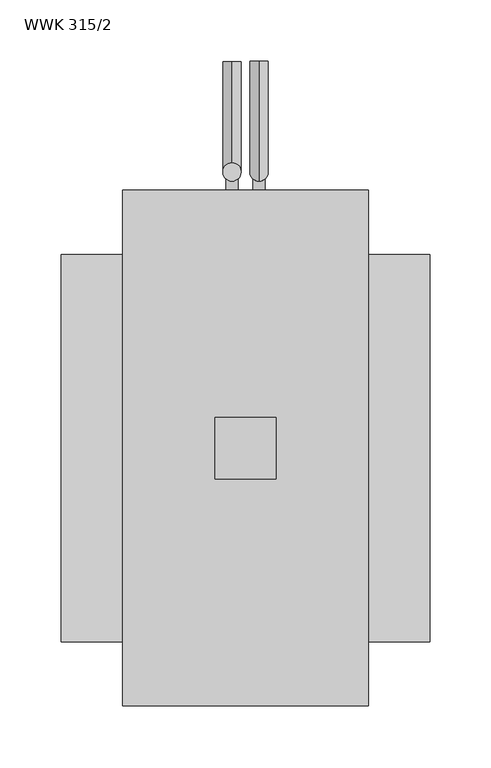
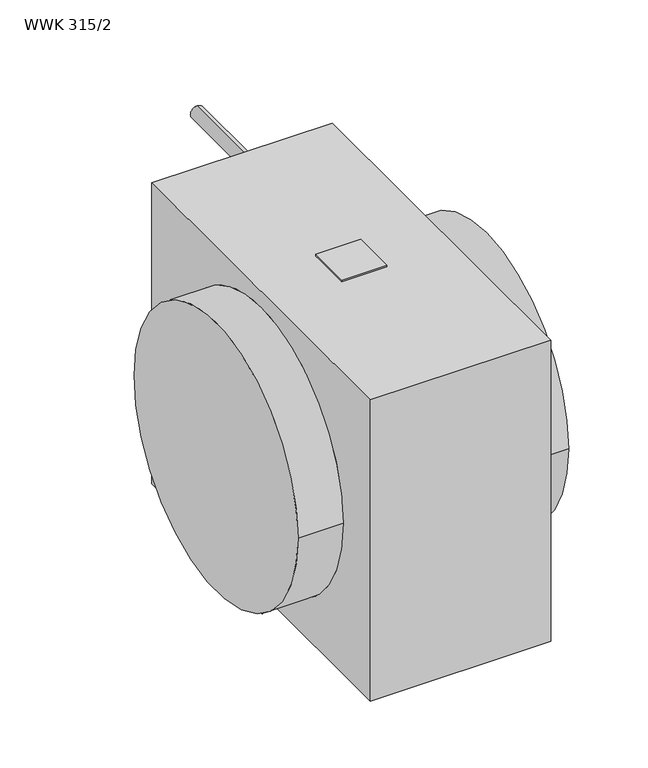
"""IFC4 building model written with IfcOpenShell, lengths in millimetres: proxy geometry, KORF_Нагреватель_Водяной_Круглый_WWK : WWK 315/2."""

from ifc_helpers import new_model, si_unit, point, frame, frame_2d, origin, place, context, project, spatial, polyline, circle_curve, ellipse_curve, trimmed, segment, composite_curve, outline, extrude, source, transform, mapped, element, save
from ifc_brep_helpers import plane_surface, cylinder_surface, advanced_brep


def wwk_315_2_fcccd76f(model_context):
    return source(origin(), model_context, "Body", "SolidModel", [
        extrude(outline(polyline([(175.0, 25.0), (175.0, -25.0), (125.0, -25.0), (125.0, 25.0), (175.0, 25.0)])), frame((0.0, 0.0, 176.5), z_axis=(0.0, 0.0, 1.0), x_axis=(1.0, 0.0, 0.0)), (0.0, 0.0, 1.0), 2.0),
        advanced_brep(
        [(300.0, -157.5, 0.0), (300.0, 157.5, 0.0), (0.0, -157.5, 0.0), (0.0, 157.5, 0.0), (250.0, -157.5, 0.0), (250.0, 157.5, 0.0), (50.0, 157.5, 0.0), (50.0, -157.5, 0.0), (250.0, -210.0, 176.5), (250.0, -210.0, -176.5), (250.0, 210.0, -176.5), (250.0, 210.0, 176.5), (50.0, -210.0, 176.5), (50.0, 210.0, 176.5), (50.0, 210.0, -176.5), (50.0, -210.0, -176.5), (53.0, 210.0, 173.5), (53.0, 210.0, -173.5), (247.0, 210.0, -173.5), (247.0, 210.0, 173.5), (53.0, 190.0, 173.5), (247.0, 190.0, 173.5), (247.0, 190.0, -173.5), (53.0, 190.0, -173.5)],
        [
            (0, 1, circle_curve(frame((300.0, 0.0, 0.0), z_axis=(1.0, 0.0, 0.0), x_axis=(0.0, 1.0, 0.0)), 157.5)),
            (1, 0, circle_curve(frame((300.0, 0.0, 0.0), z_axis=(1.0, 0.0, 0.0), x_axis=(0.0, 1.0, 0.0)), 157.5)),
            (2, 3, circle_curve(frame((0.0, 0.0, 0.0), z_axis=(-1.0, 0.0, 0.0), x_axis=(0.0, 1.0, 0.0)), 157.5)),
            (3, 2, circle_curve(frame((0.0, 0.0, 0.0), z_axis=(-1.0, 0.0, 0.0), x_axis=(0.0, 1.0, 0.0)), 157.5)),
            (0, 4),
            (4, 5, circle_curve(frame((250.0, 0.0, 0.0), z_axis=(1.0, 0.0, 0.0), x_axis=(0.0, 1.0, 0.0)), 157.5)),
            (5, 1),
            (3, 6),
            (6, 7, circle_curve(frame((50.0, 0.0, 0.0), z_axis=(-1.0, 0.0, 0.0), x_axis=(0.0, 1.0, 0.0)), 157.5)),
            (7, 2),
            (5, 4, circle_curve(frame((250.0, 0.0, 0.0), z_axis=(1.0, 0.0, 0.0), x_axis=(0.0, 1.0, 0.0)), 157.5)),
            (7, 6, circle_curve(frame((50.0, 0.0, 0.0), z_axis=(-1.0, 0.0, 0.0), x_axis=(0.0, 1.0, 0.0)), 157.5)),
            (8, 9),
            (9, 10),
            (10, 11),
            (11, 8),
            (12, 13),
            (13, 14),
            (14, 15),
            (15, 12),
            (8, 12),
            (15, 9),
            (14, 10),
            (13, 11),
            (16, 17),
            (17, 18),
            (18, 19),
            (19, 16),
            (20, 21),
            (21, 22),
            (22, 23),
            (23, 20),
            (23, 17),
            (16, 20),
            (22, 18),
            (21, 19),
        ],
        [
            plane_surface(frame((300.0, 157.5, 0.0), z_axis=(1.0, 0.0, 0.0), x_axis=(0.0, 0.0, 1.0))),
            plane_surface(frame((0.0, 157.5, 0.0), z_axis=(-1.0, 0.0, 0.0), x_axis=(0.0, 0.0, -1.0))),
            cylinder_surface(frame((0.0, 0.0, 0.0), z_axis=(1.0, 0.0, 0.0), x_axis=(0.0, 1.0, 0.0)), 157.5),
            plane_surface(frame((250.0, -210.0, 176.5), z_axis=(1.0, 0.0, 0.0), x_axis=(0.0, 0.0, -1.0))),
            plane_surface(frame((50.0, -210.0, 176.5), z_axis=(-1.0, 0.0, 0.0), x_axis=(0.0, 0.0, 1.0))),
            plane_surface(frame((250.0, -210.0, 176.5), z_axis=(0.0, -1.0, 0.0), x_axis=(-1.0, 0.0, 0.0))),
            plane_surface(frame((250.0, -210.0, -176.5), z_axis=(0.0, 0.0, -1.0), x_axis=(-1.0, 0.0, 0.0))),
            plane_surface(frame((250.0, 210.0, -176.5), z_axis=(0.0, 1.0, 0.0), x_axis=(-1.0, 0.0, 0.0))),
            plane_surface(frame((250.0, 210.0, 176.5), z_axis=(0.0, 0.0, 1.0), x_axis=(-1.0, 0.0, 0.0))),
            plane_surface(frame((53.0, 190.0, 173.5), z_axis=(0.0, 1.0, 0.0), x_axis=(0.0, 0.0, -1.0))),
            plane_surface(frame((53.0, 190.0, 173.5), z_axis=(1.0, 0.0, 0.0), x_axis=(0.0, 1.0, 0.0))),
            plane_surface(frame((53.0, 190.0, -173.5), z_axis=(0.0, 0.0, 1.0), x_axis=(0.0, 1.0, 0.0))),
            plane_surface(frame((247.0, 190.0, -173.5), z_axis=(-1.0, 0.0, 0.0), x_axis=(0.0, 1.0, 0.0))),
            plane_surface(frame((247.0, 190.0, 173.5), z_axis=(0.0, 0.0, -1.0), x_axis=(0.0, 1.0, 0.0))),
        ],
        [
            (0, [[1, 2]]),
            (1, [[3, 4]]),
            (2, [[-1, 5, 6, 7]]),
            (2, [[-4, 8, 9, 10]]),
            (2, [[-2, -7, 11, -5]]),
            (2, [[-3, -10, 12, -8]]),
            (3, [[13, 14, 15, 16], [-6, -11]]),
            (4, [[17, 18, 19, 20], [-9, -12]]),
            (5, [[-13, 21, -20, 22]]),
            (6, [[-14, -22, -19, 23]]),
            (7, [[-15, -23, -18, 24], [25, 26, 27, 28]]),
            (8, [[-16, -24, -17, -21]]),
            (9, [[29, 30, 31, 32]]),
            (10, [[-32, 33, -25, 34]]),
            (11, [[-31, 35, -26, -33]]),
            (12, [[-30, 36, -27, -35]]),
            (13, [[-29, -34, -28, -36]]),
        ],
    ),
        extrude(outline(composite_curve([segment(trimmed(circle_curve(frame_2d((156.5, 161.0)), 5.0), [point((156.5, 156.0))], [point((156.5, 166.0))], False, "CARTESIAN"), True, "CONTINUOUS"), segment(trimmed(circle_curve(frame_2d((156.5, 161.0)), 5.0), [point((156.5, 166.0))], [point((156.5, 156.0))], False, "CARTESIAN"), True, "CONTINUOUS")], self_intersect=False)), frame((0.0, 210.0, 0.0), z_axis=(0.0, 1.0, 0.0), x_axis=(0.0, 0.0, 1.0)), (0.0, 0.0, 1.0), 15.0),
        extrude(outline(composite_curve([segment(trimmed(circle_curve(frame_2d((62.6, 161.0)), 5.0), [point((62.6, 156.0))], [point((62.6, 166.0))], False, "CARTESIAN"), True, "CONTINUOUS"), segment(trimmed(circle_curve(frame_2d((62.6, 161.0)), 5.0), [point((62.6, 166.0))], [point((62.6, 156.0))], False, "CARTESIAN"), True, "CONTINUOUS")], self_intersect=False)), frame((0.0, 210.0, 0.0), z_axis=(0.0, 1.0, 0.0), x_axis=(0.0, 0.0, 1.0)), (0.0, 0.0, 1.0), 15.0),
        extrude(outline(composite_curve([segment(trimmed(circle_curve(frame_2d((-31.3, 161.0)), 5.0), [point((-31.3, 156.0))], [point((-31.3, 166.0))], False, "CARTESIAN"), True, "CONTINUOUS"), segment(trimmed(circle_curve(frame_2d((-31.3, 161.0)), 5.0), [point((-31.3, 166.0))], [point((-31.3, 156.0))], False, "CARTESIAN"), True, "CONTINUOUS")], self_intersect=False)), frame((0.0, 210.0, 0.0), z_axis=(0.0, 1.0, 0.0), x_axis=(0.0, 0.0, 1.0)), (0.0, 0.0, 1.0), 15.0),
        extrude(outline(composite_curve([segment(trimmed(circle_curve(frame_2d((31.3, 139.0)), 5.0), [point((31.3, 134.0))], [point((31.3, 144.0))], False, "CARTESIAN"), True, "CONTINUOUS"), segment(trimmed(circle_curve(frame_2d((31.3, 139.0)), 5.0), [point((31.3, 144.0))], [point((31.3, 134.0))], False, "CARTESIAN"), True, "CONTINUOUS")], self_intersect=False)), frame((0.0, 210.0, 0.0), z_axis=(0.0, 1.0, 0.0), x_axis=(0.0, 0.0, 1.0)), (0.0, 0.0, 1.0), 15.0),
        extrude(outline(composite_curve([segment(trimmed(circle_curve(frame_2d((-62.6, 139.0)), 5.0), [point((-62.6, 134.0))], [point((-62.6, 144.0))], False, "CARTESIAN"), True, "CONTINUOUS"), segment(trimmed(circle_curve(frame_2d((-62.6, 139.0)), 5.0), [point((-62.6, 144.0))], [point((-62.6, 134.0))], False, "CARTESIAN"), True, "CONTINUOUS")], self_intersect=False)), frame((0.0, 210.0, 0.0), z_axis=(0.0, 1.0, 0.0), x_axis=(0.0, 0.0, 1.0)), (0.0, 0.0, 1.0), 15.0),
        extrude(outline(composite_curve([segment(trimmed(circle_curve(frame_2d((-156.5, 139.0)), 5.0), [point((-156.5, 134.0))], [point((-156.5, 144.0))], False, "CARTESIAN"), True, "CONTINUOUS"), segment(trimmed(circle_curve(frame_2d((-156.5, 139.0)), 5.0), [point((-156.5, 144.0))], [point((-156.5, 134.0))], False, "CARTESIAN"), True, "CONTINUOUS")], self_intersect=False)), frame((0.0, 210.0, 0.0), z_axis=(0.0, 1.0, 0.0), x_axis=(0.0, 0.0, 1.0)), (0.0, 0.0, 1.0), 15.0),
        advanced_brep(
        [(139.0, 315.0, -149.0), (139.0, 315.0, -164.0), (139.0, 232.5, -149.0), (139.0, 217.5, -164.0), (139.0, 232.5, 125.2), (139.0, 217.5, 125.2)],
        [
            (0, 1, circle_curve(frame((139.0, 315.0, -156.5), z_axis=(0.0, 1.0, 0.0), x_axis=(0.0, 0.0, -1.0)), 7.5)),
            (1, 0, circle_curve(frame((139.0, 315.0, -156.5), z_axis=(0.0, 1.0, 0.0), x_axis=(0.0, 0.0, -1.0)), 7.5)),
            (0, 2),
            (2, 3, ellipse_curve(frame((139.0, 225.0, -156.5), z_axis=(0.0, 0.7071067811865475, -0.7071067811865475), x_axis=(0.0, 0.7071067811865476, 0.7071067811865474)), 10.6066017, 7.5)),
            (3, 1),
            (3, 2, ellipse_curve(frame((139.0, 225.0, -156.5), z_axis=(0.0, 0.7071067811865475, -0.7071067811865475), x_axis=(0.0, 0.7071067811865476, 0.7071067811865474)), 10.6066017, 7.5)),
            (4, 5, circle_curve(frame((139.0, 225.0, 125.2), z_axis=(0.0, 0.0, 1.0), x_axis=(0.0, -1.0, 0.0)), 7.5)),
            (5, 4, circle_curve(frame((139.0, 225.0, 125.2), z_axis=(0.0, 0.0, 1.0), x_axis=(0.0, -1.0, 0.0)), 7.5)),
            (2, 4),
            (5, 3),
        ],
        [
            plane_surface(frame((139.0, 315.0, -156.5), z_axis=(0.0, 1.0, 0.0), x_axis=(1.0, 0.0, 0.0))),
            cylinder_surface(frame((139.0, 315.0, -156.5), z_axis=(0.0, 1.0, 0.0), x_axis=(0.0, 0.0, -1.0)), 7.5),
            plane_surface(frame((139.0, 225.0, 125.2), z_axis=(0.0, 0.0, 1.0), x_axis=(1.0, 0.0, 0.0))),
            cylinder_surface(frame((139.0, 225.0, -156.5), z_axis=(0.0, 0.0, -1.0), x_axis=(0.0, -1.0, 0.0)), 7.5),
        ],
        [
            (0, [[1, 2]]),
            (1, [[-1, 3, 4, 5]]),
            (1, [[-2, -5, 6, -3]]),
            (2, [[7, 8]]),
            (3, [[-4, 9, -8, 10]]),
            (3, [[-6, -10, -7, -9]]),
        ],
    ),
        advanced_brep(
        [(161.0, 315.0, 149.0), (161.0, 315.0, 164.0), (161.0, 232.5, 149.0), (161.0, 217.5, 164.0), (161.0, 232.5, -125.2), (161.0, 217.5, -125.2)],
        [
            (0, 1, circle_curve(frame((161.0, 315.0, 156.5), z_axis=(0.0, 1.0, 0.0), x_axis=(0.0, 0.0, 1.0)), 7.5)),
            (1, 0, circle_curve(frame((161.0, 315.0, 156.5), z_axis=(0.0, 1.0, 0.0), x_axis=(0.0, 0.0, 1.0)), 7.5)),
            (0, 2),
            (2, 3, ellipse_curve(frame((161.0, 225.0, 156.5), z_axis=(0.0, 0.7071067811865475, 0.7071067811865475), x_axis=(0.0, 0.7071067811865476, -0.7071067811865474)), 10.6066017, 7.5)),
            (3, 1),
            (3, 2, ellipse_curve(frame((161.0, 225.0, 156.5), z_axis=(0.0, 0.7071067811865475, 0.7071067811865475), x_axis=(0.0, 0.7071067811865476, -0.7071067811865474)), 10.6066017, 7.5)),
            (4, 5, circle_curve(frame((161.0, 225.0, -125.2), z_axis=(0.0, 0.0, -1.0), x_axis=(0.0, -1.0, 0.0)), 7.5)),
            (5, 4, circle_curve(frame((161.0, 225.0, -125.2), z_axis=(0.0, 0.0, -1.0), x_axis=(0.0, -1.0, 0.0)), 7.5)),
            (2, 4),
            (5, 3),
        ],
        [
            plane_surface(frame((161.0, 315.0, 156.5), z_axis=(0.0, 1.0, 0.0), x_axis=(-1.0, 0.0, 0.0))),
            cylinder_surface(frame((161.0, 315.0, 156.5), z_axis=(0.0, 1.0, 0.0), x_axis=(0.0, 0.0, 1.0)), 7.5),
            plane_surface(frame((161.0, 225.0, -125.2), z_axis=(0.0, 0.0, -1.0), x_axis=(-1.0, 0.0, 0.0))),
            cylinder_surface(frame((161.0, 225.0, 156.5), z_axis=(0.0, 0.0, 1.0), x_axis=(0.0, -1.0, 0.0)), 7.5),
        ],
        [
            (0, [[1, 2]]),
            (1, [[-1, 3, 4, 5]]),
            (1, [[-2, -5, 6, -3]]),
            (2, [[7, 8]]),
            (3, [[-4, 9, -8, 10]]),
            (3, [[-6, -10, -7, -9]]),
        ],
    ),
    ])


if __name__ == "__main__":
    model = new_model("IFC4")
    model_context = context("Model", 3, world=origin())
    ifc_project = project(units=[si_unit("LENGTHUNIT", "METRE", prefix="MILLI")], contexts=[model_context])
    site = spatial("IfcSite", under=ifc_project)
    building = spatial("IfcBuilding", under=site)
    placement = place(None, origin())
    wwk_315_2_shape = wwk_315_2_fcccd76f(model_context)
    element("IfcBuildingElementProxy", 1, Name="KORF_Нагреватель_Водяной_Круглый_WWK : WWK 315/2", ObjectType="KORF_Нагреватель_Водяной_Круглый_WWK : WWK 315/2", at=placement, inside=building, context=model_context, shape_type="MappedRepresentation", body=[
        mapped(wwk_315_2_shape, transform((0.0, 0.0, 0.0), x_axis=(1.0, 0.0, 0.0), y_axis=(0.0, 1.0, 0.0), z_axis=(0.0, 0.0, 1.0))),
    ])
    save(model, "model.ifc")
